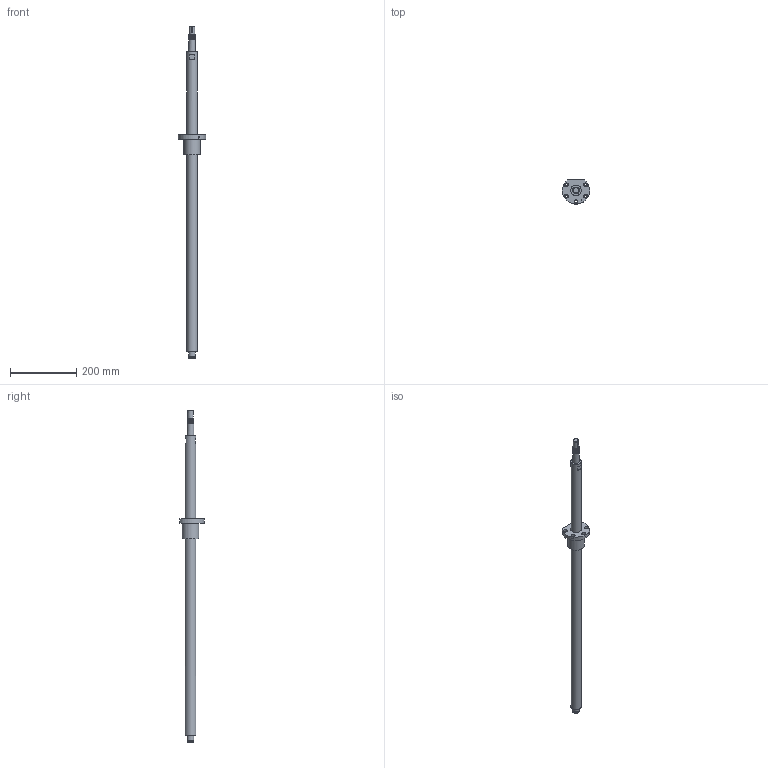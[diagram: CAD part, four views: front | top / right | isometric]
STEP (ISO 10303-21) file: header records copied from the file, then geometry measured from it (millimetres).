
FILE_DESCRIPTION(/* description */ (''),/* implementation_level */ '2;1');
FILE_NAME(/* name */ 'BSG402_asm1.stp',/* time_stamp */ '2017-01-12T14:08:36+08:00',/* author */ (''),/* organization */ (''),/* preprocessor_version */ 'ST-DEVELOPER v15',/* originating_system */ 'SIEMENS PLM Software NX 8.5',/* authorisation */ '');
FILE_SCHEMA (('AUTOMOTIVE_DESIGN { 1 0 10303 214 3 1 1 1 }'));
Length unit declared in the file: millimetre
Products named in the file (3): 01; BSG402; BSG402_asm1
Assembly tree (2 placements, depth 2):
  BSG402_asm1
    BSG402
    01
Bounding box: 81.92 x 72.85 x 1000 mm (x, y, z)
Volume: 855684.5 mm3; surface area: 125989.4 mm2
Topology: 2 solids, 2 shells, 61 faces, 131 edges, 88 vertices
Faces by surface type: cylinder 29, plane 28, bspline 2, cone 2
Full cylindrical faces by diameter (mm): 5 x1, 6 x1, 7 x5, 12 x5, 17 x1, 19 x1, 20 x8, 32 x2, 50 x1
Entity records: 2959 total; most frequent: CARTESIAN_POINT 1791, DIRECTION 234, ORIENTED_EDGE 174, AXIS2_PLACEMENT_3D 105, EDGE_LOOP 104, EDGE_CURVE 87, FACE_BOUND 85, VERTEX_POINT 71
